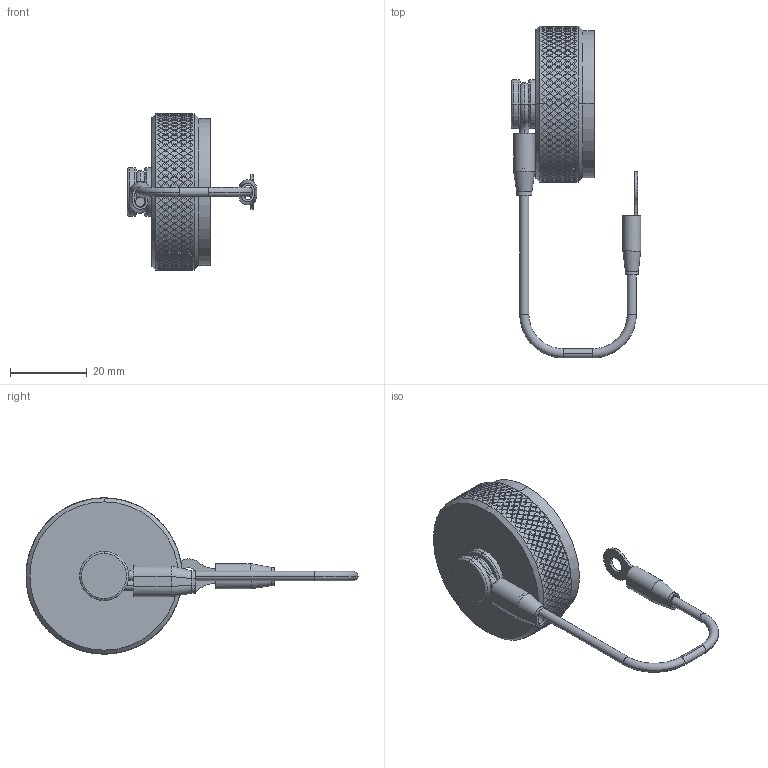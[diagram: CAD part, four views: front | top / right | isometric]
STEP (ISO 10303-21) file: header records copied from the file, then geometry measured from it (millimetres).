
FILE_DESCRIPTION (( 'STEP AP214' ), '1' );
FILE_NAME ('Q38DC-RFX-21-R1.STEP', '2026-04-22T20:10:59', ( '' ), ( '' ), 'SwSTEP 2.0', 'SolidWorks 2024', '' );
FILE_SCHEMA (( 'AUTOMOTIVE_DESIGN' ));
Length unit declared in the file: inch
Products named in the file (9): Q38-XX29-P_21R; Q38DC-RFX-21-R1; Lanyard Assembly Q38_Q38DC-RFX-21; Q38-XX48-X_Q38-2148-X; SW-348; HEAT SHRINK_HS-125-625S; SW-347; LN-06-07-13_Q38DC-RFX-21 (Assembled); HEAT SHRINK_HS-250X625_SW-348
Assembly tree (8 placements, depth 3):
  Q38DC-RFX-21-R1
    Q38-XX48-X_Q38-2148-X
    Lanyard Assembly Q38_Q38DC-RFX-21
      LN-06-07-13_Q38DC-RFX-21 (Assembled)
      SW-348
      HEAT SHRINK_HS-250X625_SW-348
      SW-347
      HEAT SHRINK_HS-125-625S
    Q38-XX29-P_21R
Bounding box: 33.64 x 86.24 x 40.56 mm (x, y, z)
Volume: 9794.7 mm3; surface area: 10665.5 mm2
Topology: 7 solids, 7 shells, 3032 faces, 7497 edges, 4975 vertices
Faces by surface type: plane 2341, cylinder 651, torus 20, bspline 14, cone 6
Entity records: 89901 total; most frequent: CARTESIAN_POINT 31273, ORIENTED_EDGE 14994, DIRECTION 9084, EDGE_CURVE 7497, VERTEX_POINT 4975, EDGE_LOOP 3538, AXIS2_PLACEMENT_3D 3332, FACE_OUTER_BOUND 3032
